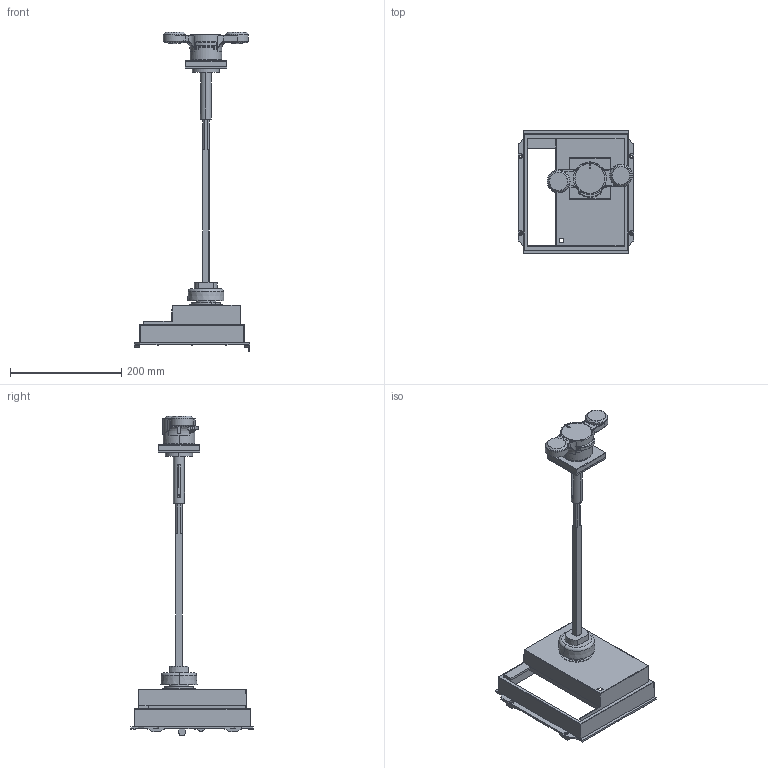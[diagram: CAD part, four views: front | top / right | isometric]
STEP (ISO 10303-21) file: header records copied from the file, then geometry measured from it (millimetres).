
FILE_DESCRIPTION((''),'2;1');
FILE_NAME('33880_3D-SIMPLIFIED_ASM','2025-10-17T09:57:31',('gines.fernandez'),(''),'CREO PARAMETRIC BY PTC INC, 2018260','CREO PARAMETRIC BY PTC INC, 2018260','');
FILE_SCHEMA(('CONFIG_CONTROL_DESIGN'));
Length unit declared in the file: millimetre
Products named in the file (15): 33880_3D-SIMPLIFIED_1; 33880_3D-SIMPLIFIED_2; 33880_3D-SIMPLIFIED_3; 33880_3D-SIMPLIFIED_4; 33880_3D-SIMPLIFIED_5; 33880_3D-SIMPLIFIED_6; 33880_3D-SIMPLIFIED_7; 33880_3D-SIMPLIFIED_8; 33880_3D-SIMPLIFIED_9; 33880_3D-SIMPLIFIED_10; 33880_3D-SIMPLIFIED_11; 33880_3D-SIMPLIFIED_12; 33880_3D-SIMPLIFIED_13; 33880_3D-SIMPLIFIED_14; 33880_3D-SIMPLIFIED_ASM
Assembly tree (14 placements, depth 2):
  33880_3D-SIMPLIFIED_ASM
    33880_3D-SIMPLIFIED_1
    33880_3D-SIMPLIFIED_2
    33880_3D-SIMPLIFIED_3
    33880_3D-SIMPLIFIED_4
    33880_3D-SIMPLIFIED_5
    33880_3D-SIMPLIFIED_6
    33880_3D-SIMPLIFIED_7
    33880_3D-SIMPLIFIED_8
    33880_3D-SIMPLIFIED_9
    33880_3D-SIMPLIFIED_10
    33880_3D-SIMPLIFIED_11
    33880_3D-SIMPLIFIED_12
    33880_3D-SIMPLIFIED_13
    33880_3D-SIMPLIFIED_14
Bounding box: 207.8 x 220.9 x 575.85 mm (x, y, z)
Volume: 599052.7 mm3; surface area: 298862.4 mm2
Topology: 14 solids, 14 shells, 689 faces, 1936 edges, 1264 vertices
Faces by surface type: plane 355, cylinder 227, cone 49, bspline 24, sphere 23, torus 9, revolution 2
Entity records: 24538 total; most frequent: CARTESIAN_POINT 6426, ORIENTED_EDGE 3826, DIRECTION 3675, EDGE_CURVE 1913, AXIS2_PLACEMENT_3D 1290, VERTEX_POINT 1264, VECTOR 1093, LINE 1093
